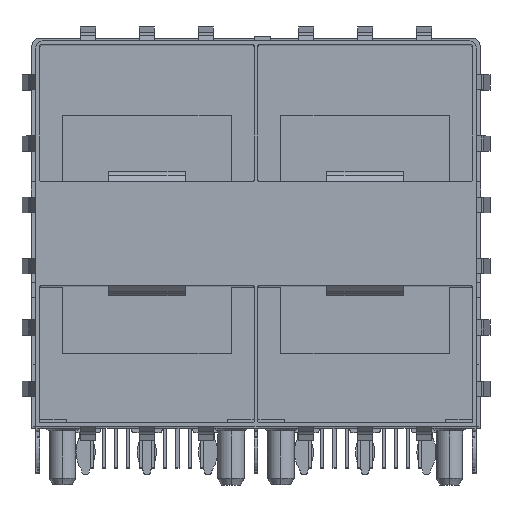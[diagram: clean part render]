
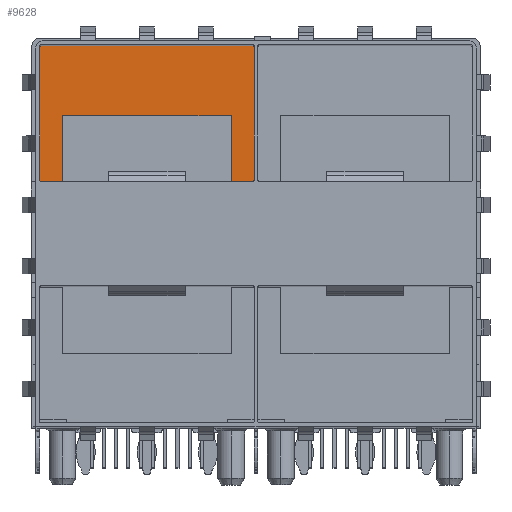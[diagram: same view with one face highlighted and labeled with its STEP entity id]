
A CAD part, top view. The second image highlights one B-rep face of the part: STEP entity #9628.
In plain terms, the highlighted planar face has unit normal (0, 0, 1).
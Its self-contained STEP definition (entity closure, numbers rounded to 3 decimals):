
#444 = VECTOR ( 'NONE', #1489, 1000. ) ;
#721 = LINE ( 'NONE', #25024, #14266 ) ;
#1134 = DIRECTION ( 'NONE',  ( -1., 0., 0. ) ) ;
#1139 = ORIENTED_EDGE ( 'NONE', *, *, #8863, .T. ) ;
#1211 = AXIS2_PLACEMENT_3D ( 'NONE', #19733, #26080, #1134 ) ;
#1489 = DIRECTION ( 'NONE',  ( 1., 0., 0. ) ) ;
#1768 = CIRCLE ( 'NONE', #16167, 0.1 ) ;
#1980 = LINE ( 'NONE', #27983, #13097 ) ;
#2753 = DIRECTION ( 'NONE',  ( -1., 0., 0. ) ) ;
#2807 = VERTEX_POINT ( 'NONE', #23456 ) ;
#3012 = DIRECTION ( 'NONE',  ( 0., -1., 0. ) ) ;
#3196 = EDGE_CURVE ( 'NONE', #39688, #11143, #33328, .T. ) ;
#3928 = EDGE_CURVE ( 'NONE', #12416, #39688, #7528, .T. ) ;
#3960 = CARTESIAN_POINT ( 'NONE',  ( -0.125, 16.1, -48.55 ) ) ;
#4271 = EDGE_CURVE ( 'NONE', #7703, #24513, #20127, .T. ) ;
#4602 = VECTOR ( 'NONE', #3012, 1000. ) ;
#4617 = EDGE_CURVE ( 'NONE', #9698, #25275, #7953, .T. ) ;
#4726 = CARTESIAN_POINT ( 'NONE',  ( -0.225, 16.1, -48.55 ) ) ;
#4855 = DIRECTION ( 'NONE',  ( 0., 0., -1. ) ) ;
#5242 = CARTESIAN_POINT ( 'NONE',  ( -0.225, 16., -48.55 ) ) ;
#5860 = CARTESIAN_POINT ( 'NONE',  ( -0.225, 24.85, -48.55 ) ) ;
#6070 = VERTEX_POINT ( 'NONE', #21078 ) ;
#7294 = CARTESIAN_POINT ( 'NONE',  ( -14.025, 16.1, -48.55 ) ) ;
#7528 = CIRCLE ( 'NONE', #1211, 0.1 ) ;
#7703 = VERTEX_POINT ( 'NONE', #11835 ) ;
#7953 = CIRCLE ( 'NONE', #25143, 0.1 ) ;
#8084 = PLANE ( 'NONE',  #26309 ) ;
#8419 = ORIENTED_EDGE ( 'NONE', *, *, #15230, .T. ) ;
#8546 = VECTOR ( 'NONE', #34820, 1000. ) ;
#8848 = ORIENTED_EDGE ( 'NONE', *, *, #9600, .T. ) ;
#8863 = EDGE_CURVE ( 'NONE', #24513, #9698, #1980, .T. ) ;
#9600 = EDGE_CURVE ( 'NONE', #31620, #2807, #28122, .T. ) ;
#9628 = ADVANCED_FACE ( 'NONE', ( #36378 ), #8084, .F. ) ;
#9698 = VERTEX_POINT ( 'NONE', #5242 ) ;
#9997 = CARTESIAN_POINT ( 'NONE',  ( -0.125, 16.1, -48.55 ) ) ;
#10550 = CARTESIAN_POINT ( 'NONE',  ( -12.625, 20.35, -48.55 ) ) ;
#10920 = CARTESIAN_POINT ( 'NONE',  ( -1.625, 16., -48.55 ) ) ;
#11143 = VERTEX_POINT ( 'NONE', #13081 ) ;
#11186 = VECTOR ( 'NONE', #23445, 1000. ) ;
#11204 = DIRECTION ( 'NONE',  ( -1., 0., 0. ) ) ;
#11835 = CARTESIAN_POINT ( 'NONE',  ( -1.625, 20.35, -48.55 ) ) ;
#12416 = VERTEX_POINT ( 'NONE', #20065 ) ;
#13081 = CARTESIAN_POINT ( 'NONE',  ( -14.125, 16.1, -48.55 ) ) ;
#13085 = ORIENTED_EDGE ( 'NONE', *, *, #3928, .T. ) ;
#13097 = VECTOR ( 'NONE', #24998, 1000. ) ;
#14034 = DIRECTION ( 'NONE',  ( -1., 0., 0. ) ) ;
#14266 = VECTOR ( 'NONE', #26621, 1000. ) ;
#14609 = EDGE_CURVE ( 'NONE', #6070, #12416, #28232, .T. ) ;
#15230 = EDGE_CURVE ( 'NONE', #35366, #7703, #33021, .T. ) ;
#16167 = AXIS2_PLACEMENT_3D ( 'NONE', #5860, #18353, #2753 ) ;
#16240 = EDGE_CURVE ( 'NONE', #25275, #16939, #21825, .T. ) ;
#16939 = VERTEX_POINT ( 'NONE', #37038 ) ;
#17968 = EDGE_CURVE ( 'NONE', #16939, #6070, #1768, .T. ) ;
#17971 = DIRECTION ( 'NONE',  ( 1., 0., 0. ) ) ;
#18353 = DIRECTION ( 'NONE',  ( 0., 0., 1. ) ) ;
#19283 = DIRECTION ( 'NONE',  ( -1., 0., 0. ) ) ;
#19568 = DIRECTION ( 'NONE',  ( 0., 1., 0. ) ) ;
#19733 = CARTESIAN_POINT ( 'NONE',  ( -14.025, 24.85, -48.55 ) ) ;
#20065 = CARTESIAN_POINT ( 'NONE',  ( -14.025, 24.95, -48.55 ) ) ;
#20127 = LINE ( 'NONE', #33920, #4602 ) ;
#21078 = CARTESIAN_POINT ( 'NONE',  ( -0.225, 24.95, -48.55 ) ) ;
#21643 = ORIENTED_EDGE ( 'NONE', *, *, #4271, .T. ) ;
#21825 = LINE ( 'NONE', #3960, #29590 ) ;
#22838 = VECTOR ( 'NONE', #17971, 1000. ) ;
#23445 = DIRECTION ( 'NONE',  ( -1., 0., 0. ) ) ;
#23456 = CARTESIAN_POINT ( 'NONE',  ( -12.625, 16., -48.55 ) ) ;
#24513 = VERTEX_POINT ( 'NONE', #10920 ) ;
#24998 = DIRECTION ( 'NONE',  ( 1., 0., 0. ) ) ;
#25024 = CARTESIAN_POINT ( 'NONE',  ( -12.625, 20.35, -48.55 ) ) ;
#25121 = ORIENTED_EDGE ( 'NONE', *, *, #3196, .T. ) ;
#25143 = AXIS2_PLACEMENT_3D ( 'NONE', #4726, #39316, #11204 ) ;
#25275 = VERTEX_POINT ( 'NONE', #9997 ) ;
#25594 = CARTESIAN_POINT ( 'NONE',  ( -14.125, 24.85, -48.55 ) ) ;
#26080 = DIRECTION ( 'NONE',  ( 0., 0., 1. ) ) ;
#26309 = AXIS2_PLACEMENT_3D ( 'NONE', #32660, #4855, #14034 ) ;
#26621 = DIRECTION ( 'NONE',  ( 0., 1., 0. ) ) ;
#26840 = EDGE_CURVE ( 'NONE', #11143, #31620, #35026, .T. ) ;
#27983 = CARTESIAN_POINT ( 'NONE',  ( -1.625, 16., -48.55 ) ) ;
#28122 = LINE ( 'NONE', #38645, #444 ) ;
#28232 = LINE ( 'NONE', #39052, #11186 ) ;
#29590 = VECTOR ( 'NONE', #19568, 1000. ) ;
#29837 = ORIENTED_EDGE ( 'NONE', *, *, #14609, .T. ) ;
#30426 = CARTESIAN_POINT ( 'NONE',  ( -12.625, 20.35, -48.55 ) ) ;
#30859 = CARTESIAN_POINT ( 'NONE',  ( -14.125, 24.85, -48.55 ) ) ;
#30878 = EDGE_LOOP ( 'NONE', ( #35952, #29837, #13085, #25121, #34177, #8848, #38347, #8419, #21643, #1139, #33514, #31799 ) ) ;
#30959 = AXIS2_PLACEMENT_3D ( 'NONE', #7294, #38257, #19283 ) ;
#31620 = VERTEX_POINT ( 'NONE', #35630 ) ;
#31799 = ORIENTED_EDGE ( 'NONE', *, *, #16240, .T. ) ;
#32031 = EDGE_CURVE ( 'NONE', #2807, #35366, #721, .T. ) ;
#32660 = CARTESIAN_POINT ( 'NONE',  ( -14.375, 25.2, -48.55 ) ) ;
#33021 = LINE ( 'NONE', #30426, #22838 ) ;
#33328 = LINE ( 'NONE', #25594, #8546 ) ;
#33514 = ORIENTED_EDGE ( 'NONE', *, *, #4617, .T. ) ;
#33920 = CARTESIAN_POINT ( 'NONE',  ( -1.625, 20.35, -48.55 ) ) ;
#34177 = ORIENTED_EDGE ( 'NONE', *, *, #26840, .T. ) ;
#34820 = DIRECTION ( 'NONE',  ( 0., -1., 0. ) ) ;
#35026 = CIRCLE ( 'NONE', #30959, 0.1 ) ;
#35366 = VERTEX_POINT ( 'NONE', #10550 ) ;
#35630 = CARTESIAN_POINT ( 'NONE',  ( -14.025, 16., -48.55 ) ) ;
#35952 = ORIENTED_EDGE ( 'NONE', *, *, #17968, .T. ) ;
#36378 = FACE_OUTER_BOUND ( 'NONE', #30878, .T. ) ;
#37038 = CARTESIAN_POINT ( 'NONE',  ( -0.125, 24.85, -48.55 ) ) ;
#38257 = DIRECTION ( 'NONE',  ( 0., 0., 1. ) ) ;
#38347 = ORIENTED_EDGE ( 'NONE', *, *, #32031, .T. ) ;
#38645 = CARTESIAN_POINT ( 'NONE',  ( -12.625, 16., -48.55 ) ) ;
#39052 = CARTESIAN_POINT ( 'NONE',  ( -0.225, 24.95, -48.55 ) ) ;
#39316 = DIRECTION ( 'NONE',  ( 0., 0., 1. ) ) ;
#39688 = VERTEX_POINT ( 'NONE', #30859 ) ;
